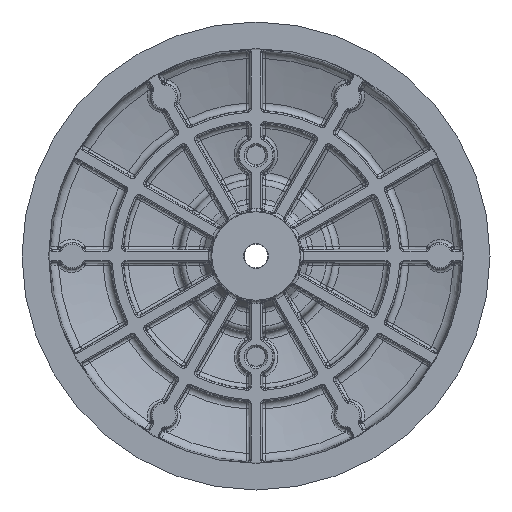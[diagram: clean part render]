
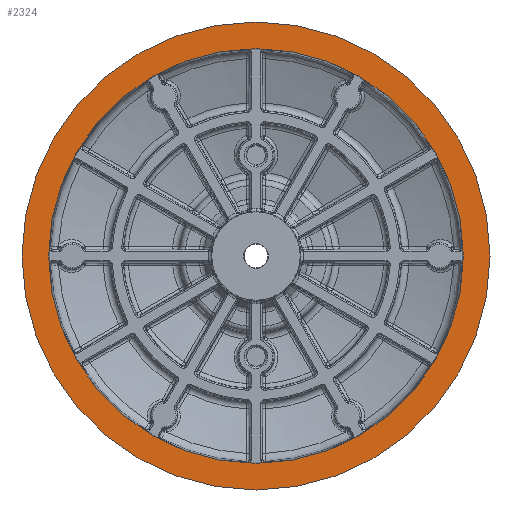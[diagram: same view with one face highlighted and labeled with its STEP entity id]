
A CAD part, front view. The second image highlights one B-rep face of the part: STEP entity #2324.
In plain terms, the highlighted planar face has unit normal (0, -1, 0).
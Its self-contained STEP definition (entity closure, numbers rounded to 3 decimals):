
#2324=ADVANCED_FACE('NONE',(#5140,#5141),#5142,.F.);
#5140=FACE_OUTER_BOUND('',#15763,.T.);
#5141=FACE_BOUND('',#15764,.T.);
#5142=PLANE('',#15765);
#15763=EDGE_LOOP('',(#27719,#27720));
#15764=EDGE_LOOP('',(#27721,#27722));
#15765=AXIS2_PLACEMENT_3D('',#27723,#27724,#27725);
#27719=ORIENTED_EDGE('',*,*,#33521,.T.);
#27720=ORIENTED_EDGE('',*,*,#33823,.T.);
#27721=ORIENTED_EDGE('',*,*,#33730,.F.);
#27722=ORIENTED_EDGE('',*,*,#33824,.F.);
#27723=CARTESIAN_POINT('',(-7.506,0.,0.0));
#27724=DIRECTION('',(0.0,1.0,0.0));
#27725=DIRECTION('',(1.0,0.0,-0.0));
#33521=EDGE_CURVE('NONE',#38434,#38432,#38435,.T.);
#33730=EDGE_CURVE('NONE',#38696,#38675,#38698,.T.);
#33823=EDGE_CURVE('NONE',#38432,#38434,#38807,.T.);
#33824=EDGE_CURVE('NONE',#38675,#38696,#38808,.T.);
#38432=VERTEX_POINT('NONE',#48340);
#38434=VERTEX_POINT('NONE',#48343);
#38435=CIRCLE('',#48344,39.698);
#38675=VERTEX_POINT('NONE',#48883);
#38696=VERTEX_POINT('NONE',#48982);
#38698=CIRCLE('',#48985,35.175);
#38807=CIRCLE('',#49247,39.698);
#38808=CIRCLE('',#49248,35.175);
#48340=CARTESIAN_POINT('',(0.,0.,39.698));
#48343=CARTESIAN_POINT('',(0.0,0.,-39.698));
#48344=AXIS2_PLACEMENT_3D('',#54250,#54251,#54252);
#48883=CARTESIAN_POINT('',(0.,0.0,35.175));
#48982=CARTESIAN_POINT('',(0.0,0.0,-35.175));
#48985=AXIS2_PLACEMENT_3D('',#54460,#54461,#54462);
#49247=AXIS2_PLACEMENT_3D('',#54559,#54560,#54561);
#49248=AXIS2_PLACEMENT_3D('',#54562,#54563,#54564);
#54250=CARTESIAN_POINT('',(0.0,0.,0.0));
#54251=DIRECTION('',(0.0,-1.0,0.0));
#54252=DIRECTION('',(0.0,0.0,-1.0));
#54460=CARTESIAN_POINT('',(0.0,0.0,0.0));
#54461=DIRECTION('',(0.0,-1.0,0.0));
#54462=DIRECTION('',(0.0,0.0,-1.0));
#54559=CARTESIAN_POINT('',(0.0,0.,0.0));
#54560=DIRECTION('',(0.0,-1.0,0.0));
#54561=DIRECTION('',(0.0,0.0,-1.0));
#54562=CARTESIAN_POINT('',(0.0,0.0,0.0));
#54563=DIRECTION('',(0.0,-1.0,0.0));
#54564=DIRECTION('',(0.0,0.0,-1.0));
